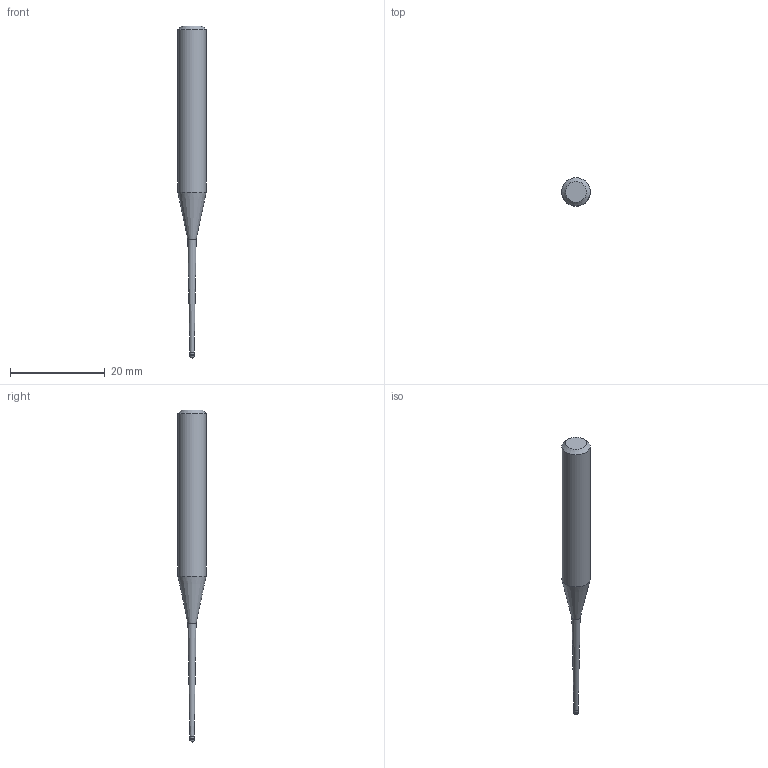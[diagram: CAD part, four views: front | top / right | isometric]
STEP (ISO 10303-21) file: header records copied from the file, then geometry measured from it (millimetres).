
FILE_DESCRIPTION((''),'2;1');
FILE_NAME('C:\Users\nsx150\AppData\Local\Temp\Mastercam 2021\E0ENTZRV18\TEMP.step','2021-09-02T09:56:05',(''),(''),'STEP Write','Mastercam 2021 ... CNC Software, Inc.','');
FILE_SCHEMA(('AUTOMOTIVE_DESIGN'));
Length unit declared in the file: millimetre
Products named in the file (1): None
Bounding box: 6 x 6 x 70 mm (x, y, z)
Volume: 1148.7 mm3; surface area: 907.1 mm2
Topology: 2 solids, 2 shells, 10 faces, 16 edges, 9 vertices
Faces by surface type: plane 3, cylinder 3, cone 3, sphere 1
Full cylindrical faces by diameter (mm): 0.905 x1, 1 x1, 6 x1
Entity records: 232 total; most frequent: DIRECTION 40, CARTESIAN_POINT 28, AXIS2_PLACEMENT_3D 20, ORIENTED_EDGE 16, EDGE_LOOP 16, STYLED_ITEM 13, ADVANCED_FACE 10, FACE_BOUND 9
